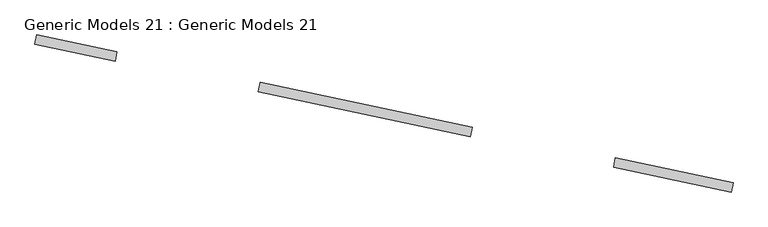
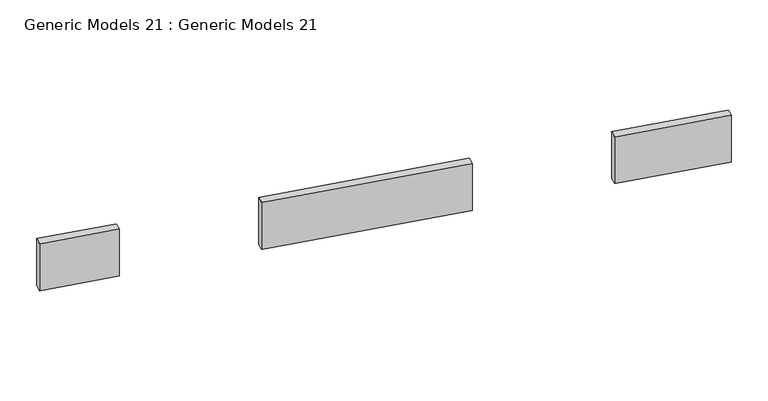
"""IFC4 building model written with IfcOpenShell, lengths in millimetres: proxy geometry, Generic Models 21 : Generic Models 21."""

from ifc_helpers import new_model, si_unit, frame, origin, place, context, project, spatial, polyline, outline, extrude, source, transform, mapped, element, save


def generic_models_21_generic_models_21_878e7001(model_context):
    return source(origin(), model_context, "Body", "SweptSolid", [
        extrude(outline(polyline([(457394.4949864, 14867.6828092), (455927.2735853, 15179.5503454), (455951.4809881, 15293.4372216), (457418.7023892, 14981.5696854), (457394.4949864, 14867.6828092)])), frame((0.0, 0.0, 5241.1911697), z_axis=(0.0, 0.0, 1.0), x_axis=(1.0, 0.0, 0.0)), (0.0, 0.0, 1.0), 700.0),
        extrude(outline(polyline([(449708.6023988, 16501.369711), (448708.8903539, 16713.8650659), (448733.0977567, 16827.7519421), (449732.8098017, 16615.2565871), (449708.6023988, 16501.369711)])), frame((0.0, 0.0, 5241.1911697), z_axis=(0.0, 0.0, 1.0), x_axis=(1.0, 0.0, 0.0)), (0.0, 0.0, 1.0), 700.0),
        extrude(outline(polyline([(454138.437253, 15559.7792456), (451497.4387311, 16121.1408108), (451521.6461339, 16235.027687), (454162.6446559, 15673.6661218), (454138.437253, 15559.7792456)])), frame((0.0, 0.0, 5241.1911697), z_axis=(0.0, 0.0, 1.0), x_axis=(1.0, 0.0, 0.0)), (0.0, 0.0, 1.0), 700.0),
    ])


if __name__ == "__main__":
    model = new_model("IFC4")
    model_context = context("Model", 3, world=origin())
    ifc_project = project(units=[si_unit("LENGTHUNIT", "METRE", prefix="MILLI")], contexts=[model_context])
    site = spatial("IfcSite", under=ifc_project)
    building = spatial("IfcBuilding", under=site)
    placement = place(None, origin())
    generic_models_21_generic_models_21_shape = generic_models_21_generic_models_21_878e7001(model_context)
    element("IfcBuildingElementProxy", 1, Name="Generic Models 21 : Generic Models 21", ObjectType="Generic Models 21 : Generic Models 21", at=placement, inside=building, context=model_context, shape_type="MappedRepresentation", body=[
        mapped(generic_models_21_generic_models_21_shape, transform((0.0, 0.0, 0.0), x_axis=(1.0, 0.0, 0.0), y_axis=(0.0, 1.0, 0.0), z_axis=(0.0, 0.0, 1.0))),
    ])
    save(model, "model.ifc")
